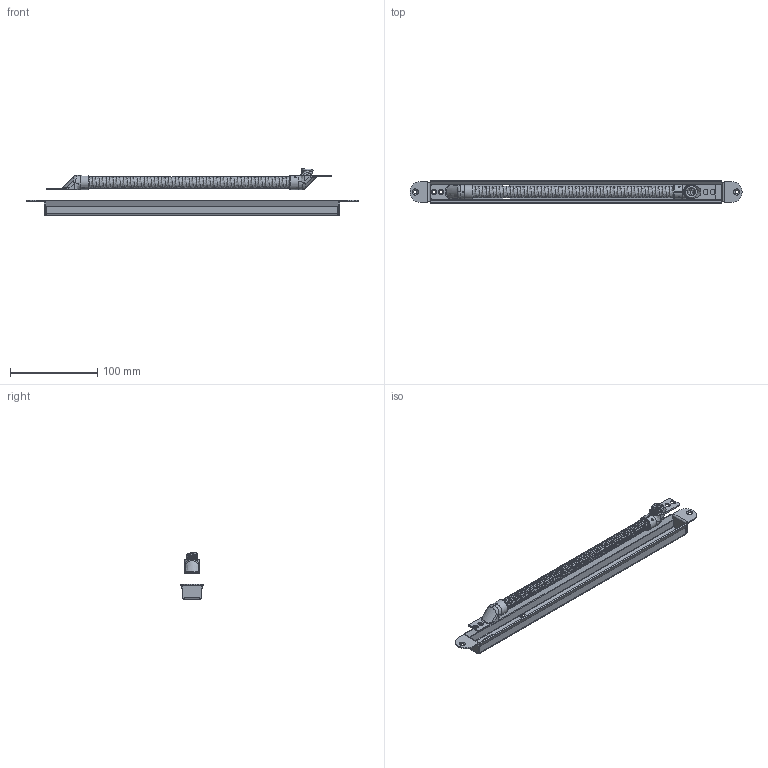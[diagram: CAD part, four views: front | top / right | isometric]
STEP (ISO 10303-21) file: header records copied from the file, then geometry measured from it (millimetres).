
FILE_DESCRIPTION(/* description */ (''),/* implementation_level */ '2;1');
FILE_NAME(/* name */ 'S:\Projekte\10 17 Hörmann Kabelübergang neu\Zeichungen\Endprodukt\M 11 15_24\M 11 15_24.stp',/* time_stamp */ '2014-06-18T13:14:43+02:00',/* author */ ('jsuarez'),/* organization */ (''),/* preprocessor_version */ 'ST-DEVELOPER v15.2',/* originating_system */ 'Autodesk Inventor 2014',/* authorisation */ '');
FILE_SCHEMA (('CONFIG_CONTROL_DESIGN'));
Length unit declared in the file: millimetre
Products named in the file (1): M 11 15_24
Bounding box: 380 x 26.95 x 53.62 mm (x, y, z)
Volume: 44776.7 mm3; surface area: 75716.7 mm2
Topology: 2 solids, 2 shells, 281 faces, 832 edges, 518 vertices
Faces by surface type: plane 112, cylinder 74, bspline 73, cone 14, sphere 6, torus 2
Full cylindrical faces by diameter (mm): 2 x2, 3.242 x2, 4.5 x2, 4.7 x2
Entity records: 31355 total; most frequent: CARTESIAN_POINT 24375, ORIENTED_EDGE 1602, DIRECTION 1064, EDGE_CURVE 784, VERTEX_POINT 498, AXIS2_PLACEMENT_3D 391, EDGE_LOOP 348, B_SPLINE_CURVE_WITH_KNOTS 320
